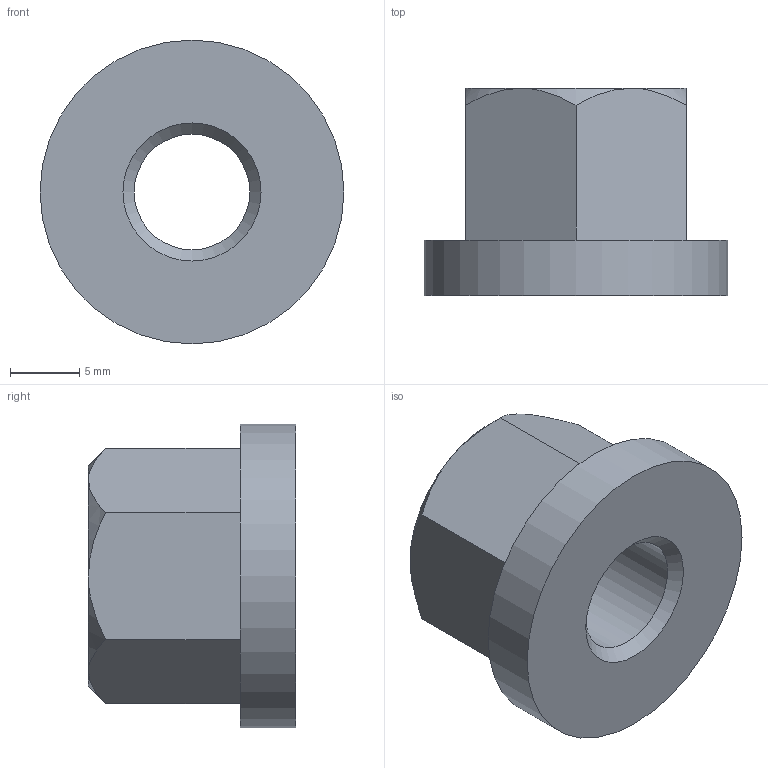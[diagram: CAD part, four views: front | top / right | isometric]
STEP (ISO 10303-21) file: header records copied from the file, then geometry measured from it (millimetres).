
FILE_DESCRIPTION( ( 'STEP AP203' ), '1' );
FILE_NAME( 'C:/Temp/Ganter_Step_05_03_2020/data/3_2/din6331/Hexagon nut DIN 6331-M10.stp', '2020-03-13T05:16:15', ( 'License CC BY-ND 4.0' ), ( 'CADENAS' ), ' ', 'PARTsolutions', ' ' );
FILE_SCHEMA( ( 'CONFIG_CONTROL_DESIGN' ) );
Length unit declared in the file: millimetre
Products named in the file (1): _Hexagon nut DIN 6331-M10
Bounding box: 22 x 15 x 22 mm (x, y, z)
Volume: 3106.6 mm3; surface area: 1892.6 mm2
Topology: 1 solids, 1 shells, 19 faces, 41 edges, 25 vertices
Faces by surface type: plane 9, cone 8, cylinder 2
Full cylindrical faces by diameter (mm): 8.376 x1, 22 x1
Entity records: 590 total; most frequent: CARTESIAN_POINT 164, DIRECTION 76, ORIENTED_EDGE 72, EDGE_CURVE 36, AXIS2_PLACEMENT_3D 32, EDGE_LOOP 26, VERTEX_POINT 24, FACE_OUTER_BOUND 21
